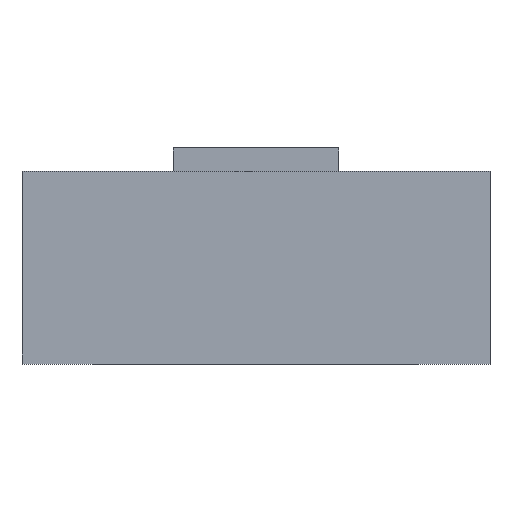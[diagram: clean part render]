
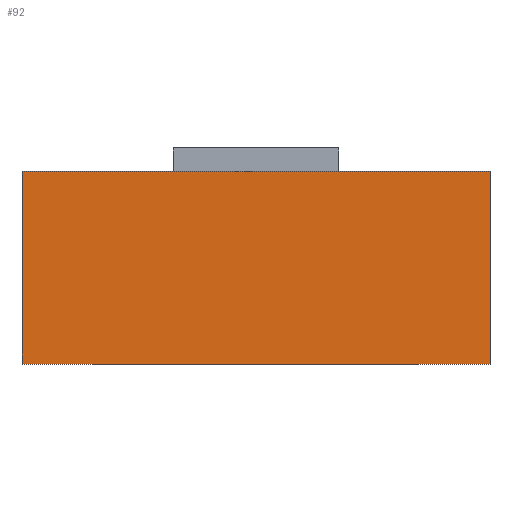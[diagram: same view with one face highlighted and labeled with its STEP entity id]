
A CAD part, front view. The second image highlights one B-rep face of the part: STEP entity #92.
In plain terms, the highlighted planar face has unit normal (0, -1, 0).
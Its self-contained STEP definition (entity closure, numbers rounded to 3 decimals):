
#92=ADVANCED_FACE('',(#180),#181,.F.);
#180=FACE_OUTER_BOUND('',#260,.T.);
#181=PLANE('',#261);
#260=EDGE_LOOP('',(#477,#478,#479,#480));
#261=AXIS2_PLACEMENT_3D('',#481,#482,#483);
#477=ORIENTED_EDGE('',*,*,#574,.T.);
#478=ORIENTED_EDGE('',*,*,#559,.F.);
#479=ORIENTED_EDGE('',*,*,#529,.F.);
#480=ORIENTED_EDGE('',*,*,#494,.T.);
#481=CARTESIAN_POINT('',(4.25,0.0,3.5));
#482=DIRECTION('',(0.0,1.0,0.0));
#483=DIRECTION('',(-1.0,0.0,0.0));
#494=EDGE_CURVE('',#585,#583,#586,.T.);
#529=EDGE_CURVE('',#585,#644,#645,.T.);
#559=EDGE_CURVE('',#644,#685,#687,.T.);
#574=EDGE_CURVE('',#583,#685,#705,.T.);
#583=VERTEX_POINT('',#714);
#585=VERTEX_POINT('',#717);
#586=LINE('',#718,#719);
#644=VERTEX_POINT('',#804);
#645=LINE('',#805,#806);
#685=VERTEX_POINT('',#868);
#687=LINE('',#871,#872);
#705=LINE('',#898,#899);
#714=CARTESIAN_POINT('',(-4.25,0.0,3.5));
#717=CARTESIAN_POINT('',(4.25,0.0,3.5));
#718=CARTESIAN_POINT('',(4.25,0.0,3.5));
#719=VECTOR('',#909,1.0);
#804=CARTESIAN_POINT('',(4.25,0.0,0.0));
#805=CARTESIAN_POINT('',(4.25,0.0,3.5));
#806=VECTOR('',#937,1.0);
#868=CARTESIAN_POINT('',(-4.25,0.0,0.0));
#871=CARTESIAN_POINT('',(4.25,0.0,0.0));
#872=VECTOR('',#961,1.0);
#898=CARTESIAN_POINT('',(-4.25,0.0,3.5));
#899=VECTOR('',#970,1.0);
#909=DIRECTION('',(-1.0,0.0,0.0));
#937=DIRECTION('',(0.0,0.0,-1.0));
#961=DIRECTION('',(-1.0,0.0,0.0));
#970=DIRECTION('',(0.0,0.0,-1.0));
